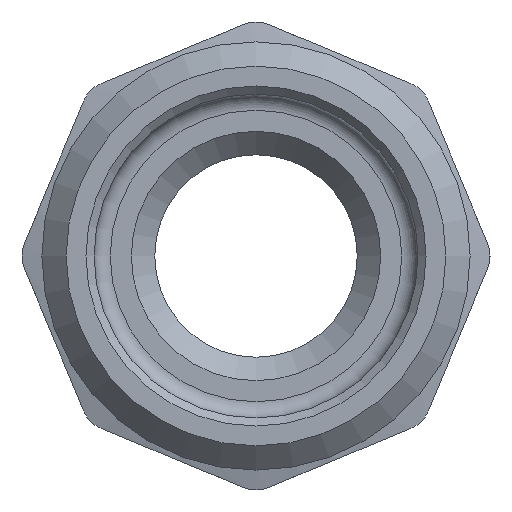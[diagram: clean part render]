
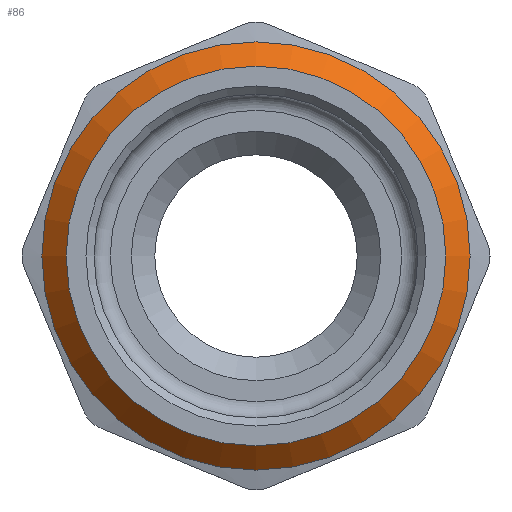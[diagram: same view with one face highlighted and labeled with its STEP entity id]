
A CAD part, front view. The second image highlights one B-rep face of the part: STEP entity #86.
In plain terms, the highlighted conical face has half-angle 45 degrees and reference radius 12.47 mm.
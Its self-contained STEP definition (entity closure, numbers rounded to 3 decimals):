
#86=ADVANCED_FACE('',(#458,#460),#462,.T.);
#458=FACE_OUTER_BOUND('',#459,.T.);
#459=EDGE_LOOP('',(#842));
#460=FACE_OUTER_BOUND('',#461,.T.);
#461=EDGE_LOOP('',(#843));
#462=CONICAL_SURFACE('',#463,12.471,0.785);
#463=AXIS2_PLACEMENT_3D('',#464,#465,#466);
#464=CARTESIAN_POINT('',(0.,-24.85,0.));
#465=DIRECTION('',(0.,1.,0.));
#466=DIRECTION('',(1.,0.,0.));
#842=ORIENTED_EDGE('',*,*,#909,.F.);
#843=ORIENTED_EDGE('',*,*,#912,.T.);
#909=EDGE_CURVE('',#1025,#1025,#1026,.T.);
#912=EDGE_CURVE('',#1031,#1031,#1032,.T.);
#1025=VERTEX_POINT('',#1250);
#1026=CIRCLE('',#1251,11.721);
#1031=VERTEX_POINT('',#1265);
#1032=CIRCLE('',#1266,13.221);
#1250=CARTESIAN_POINT('',(-11.721,-25.6,0.));
#1251=AXIS2_PLACEMENT_3D('',#1252,#1253,#1254);
#1252=CARTESIAN_POINT('',(0.,-25.6,0.));
#1253=DIRECTION('',(0.,-1.,0.));
#1254=DIRECTION('',(-1.,0.,0.));
#1265=CARTESIAN_POINT('',(-13.221,-24.1,0.));
#1266=AXIS2_PLACEMENT_3D('',#1267,#1268,#1269);
#1267=CARTESIAN_POINT('',(0.,-24.1,0.));
#1268=DIRECTION('',(0.,-1.,0.));
#1269=DIRECTION('',(-1.,0.,0.));
